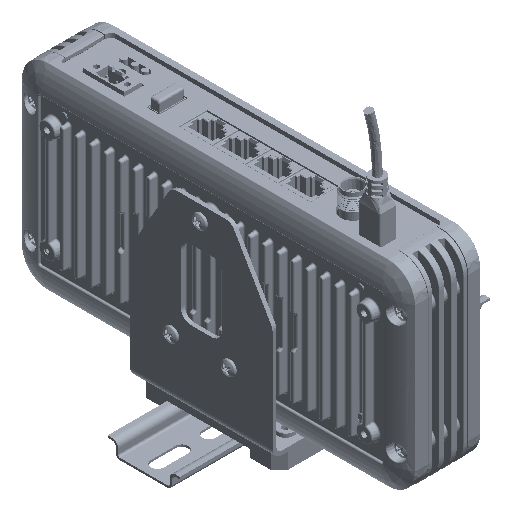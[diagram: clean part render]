
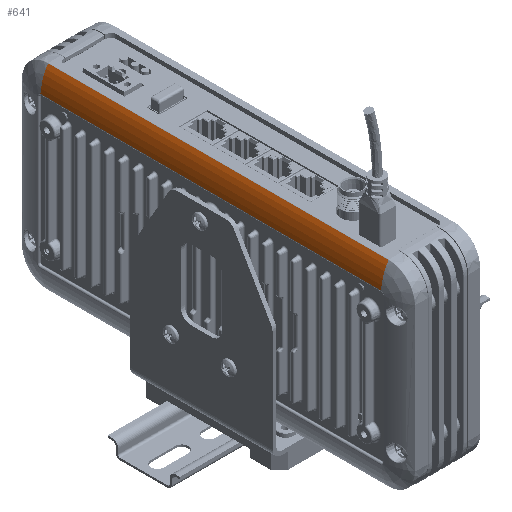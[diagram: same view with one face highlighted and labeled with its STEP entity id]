
A CAD part, isometric view. The second image highlights one B-rep face of the part: STEP entity #641.
In plain terms, the highlighted free-form (B-spline) face has degree [3, 1] with [4, 2] control points.
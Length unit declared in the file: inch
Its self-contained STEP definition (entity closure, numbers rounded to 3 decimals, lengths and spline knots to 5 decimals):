
#641 = ADVANCED_FACE ( 'NONE', ( #242676 ), #146398, .T. ) ;
#14379 = CARTESIAN_POINT ( 'NONE',  ( -3.25, 0.25012, 1.74452 ) ) ;
#14662 = ORIENTED_EDGE ( 'NONE', *, *, #298174, .T. ) ;
#21553 = DIRECTION ( 'NONE',  ( 1., 0., 0. ) ) ;
#31281 = CARTESIAN_POINT ( 'NONE',  ( 3.25, 0.21274, 1.53705 ) ) ;
#41003 = CARTESIAN_POINT ( 'NONE',  ( -3.25, 0.21274, 1.53705 ) ) ;
#50868 = EDGE_LOOP ( 'NONE', ( #119818, #110832, #14662, #285761 ) ) ;
#65738 = CARTESIAN_POINT ( 'NONE',  ( -3.25, 0.35047, 1.87129 ) ) ;
#67537 = CARTESIAN_POINT ( 'NONE',  ( -3.25, 0.20266, 1.44201 ) ) ;
#92376 = CARTESIAN_POINT ( 'NONE',  ( -3.25, 0.21274, 1.53705 ) ) ;
#110832 = ORIENTED_EDGE ( 'NONE', *, *, #206023, .T. ) ;
#118882 = CARTESIAN_POINT ( 'NONE',  ( 3.25, 0.35047, 1.87129 ) ) ;
#119581 = CARTESIAN_POINT ( 'NONE',  ( 3.25, 0.35047, 1.87129 ) ) ;
#119818 = ORIENTED_EDGE ( 'NONE', *, *, #233384, .F. ) ;
#126556 = B_SPLINE_CURVE_WITH_KNOTS ( 'NONE', 3,
 ( #241730, #294831, #31281, #216291 ),
 .UNSPECIFIED., .F., .F.,
 ( 4, 4 ),
 ( 0.08135, 0.83762 ),
 .UNSPECIFIED. ) ;
#134019 = CARTESIAN_POINT ( 'NONE',  ( 3.25, 0.35047, 1.87129 ) ) ;
#143442 = VERTEX_POINT ( 'NONE', #134019 ) ;
#146398 = B_SPLINE_SURFACE_WITH_KNOTS ( 'NONE', 3, 1, ( 
 ( #224854, #119581 ),
 ( #14379, #199416 ),
 ( #41003, #226003 ),
 ( #67537, #252591 ) ),
 .UNSPECIFIED., .F., .F., .F.,
 ( 4, 4 ),
 ( 2, 2 ),
 ( 0.08135, 0.83762 ),
 ( 0., 1. ),
 .UNSPECIFIED. ) ;
#164809 = VECTOR ( 'NONE', #278419, 39.37008 ) ;
#186434 = VERTEX_POINT ( 'NONE', #231011 ) ;
#190617 = VECTOR ( 'NONE', #21553, 39.37008 ) ;
#198849 = LINE ( 'NONE', #338335, #190617 ) ;
#199416 = CARTESIAN_POINT ( 'NONE',  ( 3.25, 0.25012, 1.74452 ) ) ;
#206023 = EDGE_CURVE ( 'Edge36', #143442, #186434, #243357, .T. ) ;
#216291 = CARTESIAN_POINT ( 'NONE',  ( 3.25, 0.20266, 1.44201 ) ) ;
#224854 = CARTESIAN_POINT ( 'NONE',  ( -3.25, 0.35047, 1.87129 ) ) ;
#226003 = CARTESIAN_POINT ( 'NONE',  ( 3.25, 0.21274, 1.53705 ) ) ;
#231011 = CARTESIAN_POINT ( 'NONE',  ( -3.25, 0.35047, 1.87129 ) ) ;
#233384 = EDGE_CURVE ( 'NONE', #143442, #250521, #126556, .T. ) ;
#235694 = B_SPLINE_CURVE_WITH_KNOTS ( 'NONE', 3,
 ( #65738, #250799, #92376, #277315 ),
 .UNSPECIFIED., .F., .F.,
 ( 4, 4 ),
 ( 0.08135, 0.83762 ),
 .UNSPECIFIED. ) ;
#241730 = CARTESIAN_POINT ( 'NONE',  ( 3.25, 0.35047, 1.87129 ) ) ;
#242676 = FACE_OUTER_BOUND ( 'NONE', #50868, .T. ) ;
#243357 = LINE ( 'NONE', #118882, #164809 ) ;
#250521 = VERTEX_POINT ( 'NONE', #299638 ) ;
#250799 = CARTESIAN_POINT ( 'NONE',  ( -3.25, 0.25012, 1.74452 ) ) ;
#252591 = CARTESIAN_POINT ( 'NONE',  ( 3.25, 0.20266, 1.44201 ) ) ;
#266631 = VERTEX_POINT ( 'NONE', #296874 ) ;
#277315 = CARTESIAN_POINT ( 'NONE',  ( -3.25, 0.20266, 1.44201 ) ) ;
#278419 = DIRECTION ( 'NONE',  ( -1., 0., 0. ) ) ;
#285761 = ORIENTED_EDGE ( 'NONE', *, *, #288589, .T. ) ;
#288589 = EDGE_CURVE ( 'NONE', #266631, #250521, #198849, .T. ) ;
#294831 = CARTESIAN_POINT ( 'NONE',  ( 3.25, 0.25012, 1.74452 ) ) ;
#296874 = CARTESIAN_POINT ( 'NONE',  ( -3.25, 0.20266, 1.44201 ) ) ;
#298174 = EDGE_CURVE ( 'NONE', #186434, #266631, #235694, .T. ) ;
#299638 = CARTESIAN_POINT ( 'NONE',  ( 3.25, 0.20266, 1.44201 ) ) ;
#338335 = CARTESIAN_POINT ( 'NONE',  ( -3.25, 0.20266, 1.44201 ) ) ;
